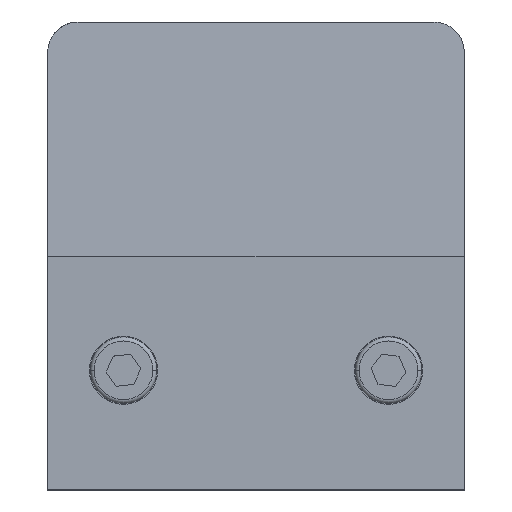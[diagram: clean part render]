
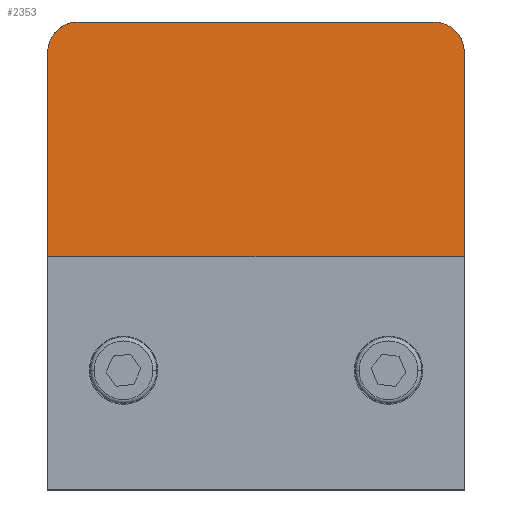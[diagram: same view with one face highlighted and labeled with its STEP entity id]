
A CAD part, top view. The second image highlights one B-rep face of the part: STEP entity #2353.
In plain terms, the highlighted planar face has unit normal (0, 0.064, 0.998).
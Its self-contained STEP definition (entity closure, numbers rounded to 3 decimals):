
#27 = EDGE_CURVE ( 'NONE', #607, #850, #1599, .T. ) ;
#44 = CARTESIAN_POINT ( 'NONE',  ( -27.5, 35.843, 21.607 ) ) ;
#46 = ORIENTED_EDGE ( 'NONE', *, *, #1691, .F. ) ;
#74 = FACE_OUTER_BOUND ( 'NONE', #639, .T. ) ;
#85 = PLANE ( 'NONE',  #336 ) ;
#150 = ORIENTED_EDGE ( 'NONE', *, *, #332, .T. ) ;
#153 = LINE ( 'NONE', #341, #2666 ) ;
#163 = DIRECTION ( 'NONE',  ( 0., -0.998, 0.064 ) ) ;
#213 = CARTESIAN_POINT ( 'NONE',  ( -27.5, 33.5, 21.758 ) ) ;
#243 = CARTESIAN_POINT ( 'NONE',  ( 27.5, 33.5, 21.758 ) ) ;
#247 = DIRECTION ( 'NONE',  ( 0., -0.064, -0.998 ) ) ;
#257 = CARTESIAN_POINT ( 'NONE',  ( 27.5, 33.5, 21.758 ) ) ;
#323 = VERTEX_POINT ( 'NONE', #243 ) ;
#332 = EDGE_CURVE ( 'NONE', #323, #2143, #435, .T. ) ;
#336 = AXIS2_PLACEMENT_3D ( 'NONE', #891, #247, #1311 ) ;
#341 = CARTESIAN_POINT ( 'NONE',  ( 27.5, 37.5, 21.5 ) ) ;
#435 =( BOUNDED_CURVE ( )  B_SPLINE_CURVE ( 3, ( #257, #1087, #2540, #1904 ),
 .UNSPECIFIED., .F., .F. ) 
 B_SPLINE_CURVE_WITH_KNOTS ( ( 4, 4 ),
 ( 4.712, 6.283 ),
 .UNSPECIFIED. ) 
 CURVE ( )  GEOMETRIC_REPRESENTATION_ITEM ( )  RATIONAL_B_SPLINE_CURVE ( ( 1., 0.805, 0.805, 1. ) ) 
 REPRESENTATION_ITEM ( '' )  );
#444 = CARTESIAN_POINT ( 'NONE',  ( -25.843, 37.5, 21.5 ) ) ;
#484 = CARTESIAN_POINT ( 'NONE',  ( -27.5, 33.5, 21.758 ) ) ;
#572 = CARTESIAN_POINT ( 'NONE',  ( -27.5, 37.5, 21.5 ) ) ;
#582 = ORIENTED_EDGE ( 'NONE', *, *, #27, .T. ) ;
#607 = VERTEX_POINT ( 'NONE', #213 ) ;
#639 = EDGE_LOOP ( 'NONE', ( #1880, #1958, #582, #2083, #46, #150 ) ) ;
#642 =( BOUNDED_CURVE ( )  B_SPLINE_CURVE ( 3, ( #893, #444, #44, #484 ),
 .UNSPECIFIED., .F., .F. ) 
 B_SPLINE_CURVE_WITH_KNOTS ( ( 4, 4 ),
 ( 3.142, 4.712 ),
 .UNSPECIFIED. ) 
 CURVE ( )  GEOMETRIC_REPRESENTATION_ITEM ( )  RATIONAL_B_SPLINE_CURVE ( ( 1., 0.805, 0.805, 1. ) ) 
 REPRESENTATION_ITEM ( '' )  );
#665 = CARTESIAN_POINT ( 'NONE',  ( 27.5, 6.5, 23.5 ) ) ;
#690 = CARTESIAN_POINT ( 'NONE',  ( 27.5, 6.5, 23.5 ) ) ;
#696 = VECTOR ( 'NONE', #163, 1000. ) ;
#744 = LINE ( 'NONE', #1812, #2545 ) ;
#747 = EDGE_CURVE ( 'NONE', #1565, #850, #1680, .T. ) ;
#755 = CARTESIAN_POINT ( 'NONE',  ( 23.5, 37.5, 21.5 ) ) ;
#767 = VECTOR ( 'NONE', #886, 1000. ) ;
#850 = VERTEX_POINT ( 'NONE', #2385 ) ;
#886 = DIRECTION ( 'NONE',  ( -1., 0., 0. ) ) ;
#891 = CARTESIAN_POINT ( 'NONE',  ( 27.5, 37.5, 21.5 ) ) ;
#893 = CARTESIAN_POINT ( 'NONE',  ( -23.5, 37.5, 21.5 ) ) ;
#1087 = CARTESIAN_POINT ( 'NONE',  ( 27.5, 35.843, 21.607 ) ) ;
#1101 = EDGE_CURVE ( 'NONE', #2525, #607, #642, .T. ) ;
#1311 = DIRECTION ( 'NONE',  ( 0., 0.998, -0.064 ) ) ;
#1565 = VERTEX_POINT ( 'NONE', #665 ) ;
#1599 = LINE ( 'NONE', #572, #696 ) ;
#1680 = LINE ( 'NONE', #690, #767 ) ;
#1691 = EDGE_CURVE ( 'NONE', #323, #1565, #744, .T. ) ;
#1812 = CARTESIAN_POINT ( 'NONE',  ( 27.5, 37.5, 21.5 ) ) ;
#1880 = ORIENTED_EDGE ( 'NONE', *, *, #2154, .T. ) ;
#1904 = CARTESIAN_POINT ( 'NONE',  ( 23.5, 37.5, 21.5 ) ) ;
#1958 = ORIENTED_EDGE ( 'NONE', *, *, #1101, .T. ) ;
#2083 = ORIENTED_EDGE ( 'NONE', *, *, #747, .F. ) ;
#2143 = VERTEX_POINT ( 'NONE', #755 ) ;
#2154 = EDGE_CURVE ( 'NONE', #2143, #2525, #153, .T. ) ;
#2353 = ADVANCED_FACE ( 'NONE', ( #74 ), #85, .F. ) ;
#2381 = DIRECTION ( 'NONE',  ( -1., 0., 0. ) ) ;
#2385 = CARTESIAN_POINT ( 'NONE',  ( -27.5, 6.5, 23.5 ) ) ;
#2458 = CARTESIAN_POINT ( 'NONE',  ( -23.5, 37.5, 21.5 ) ) ;
#2525 = VERTEX_POINT ( 'NONE', #2458 ) ;
#2540 = CARTESIAN_POINT ( 'NONE',  ( 25.843, 37.5, 21.5 ) ) ;
#2545 = VECTOR ( 'NONE', #2625, 1000. ) ;
#2625 = DIRECTION ( 'NONE',  ( 0., -0.998, 0.064 ) ) ;
#2666 = VECTOR ( 'NONE', #2381, 1000. ) ;
